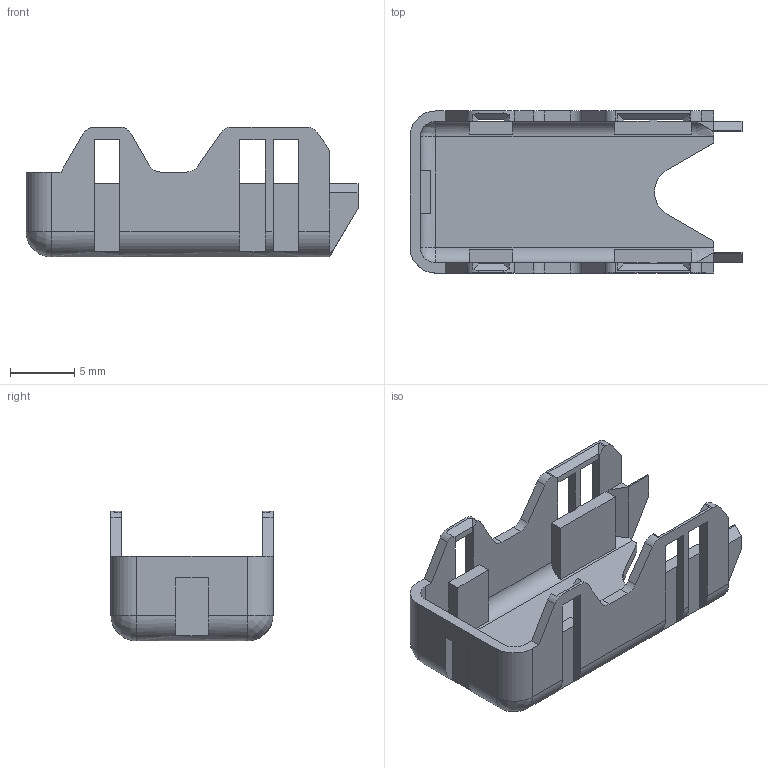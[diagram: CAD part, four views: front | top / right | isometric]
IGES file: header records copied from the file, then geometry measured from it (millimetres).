
Start section:  PTC IGES file: c-144170-1-b-3d.igs
Global section: file name: c-144170-1-b-3d.igs; native system: Creo Parametric by PTC Inc.; preprocessor: 2016050; author: workeradm; organization: Unknown; units: millimetre
Bounding box: 25.8 x 12.6 x 10.1 mm (x, y, z)
Surface area: 1510.4 mm2 (no closed solid volume)
Topology: 0 solids, 0 shells, 138 faces, 824 edges, 824 vertices
Faces by surface type: bspline 111, revolution 27
